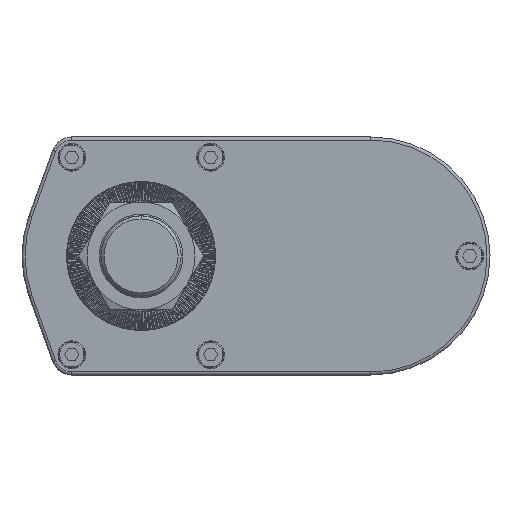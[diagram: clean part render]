
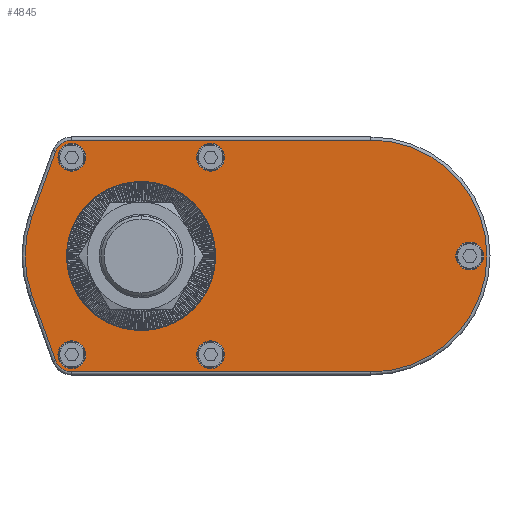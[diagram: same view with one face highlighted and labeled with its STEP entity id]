
A CAD part, left-side view. The second image highlights one B-rep face of the part: STEP entity #4845.
In plain terms, the highlighted planar face has unit normal (-1, 0, 0).
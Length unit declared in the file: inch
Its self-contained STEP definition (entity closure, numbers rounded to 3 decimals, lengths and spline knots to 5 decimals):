
#4845=ADVANCED_FACE('',(#9782,#9783,#9784,#9785,#9786,#9787,#9788),#9789,.F.);
#9782=FACE_BOUND('',#15267,.T.);
#9783=FACE_BOUND('',#15268,.T.);
#9784=FACE_BOUND('',#15269,.T.);
#9785=FACE_BOUND('',#15270,.T.);
#9786=FACE_BOUND('',#15271,.T.);
#9787=FACE_BOUND('',#15272,.T.);
#9788=FACE_OUTER_BOUND('',#15273,.T.);
#9789=PLANE('',#15274);
#15267=EDGE_LOOP('',(#29398,#29399));
#15268=EDGE_LOOP('',(#29400,#29401));
#15269=EDGE_LOOP('',(#29402,#29403));
#15270=EDGE_LOOP('',(#29404,#29405));
#15271=EDGE_LOOP('',(#29406,#29407));
#15272=EDGE_LOOP('',(#29408,#29409));
#15273=EDGE_LOOP('',(#29410,#29411,#29412,#29413,#29414,#29415,#29416,#29417));
#15274=AXIS2_PLACEMENT_3D('',#29418,#29419,#29420);
#29398=ORIENTED_EDGE('',*,*,#34643,.F.);
#29399=ORIENTED_EDGE('',*,*,#31966,.F.);
#29400=ORIENTED_EDGE('',*,*,#32916,.T.);
#29401=ORIENTED_EDGE('',*,*,#33321,.T.);
#29402=ORIENTED_EDGE('',*,*,#31656,.T.);
#29403=ORIENTED_EDGE('',*,*,#33598,.T.);
#29404=ORIENTED_EDGE('',*,*,#32038,.T.);
#29405=ORIENTED_EDGE('',*,*,#35002,.T.);
#29406=ORIENTED_EDGE('',*,*,#30761,.T.);
#29407=ORIENTED_EDGE('',*,*,#34966,.T.);
#29408=ORIENTED_EDGE('',*,*,#31306,.T.);
#29409=ORIENTED_EDGE('',*,*,#35512,.T.);
#29410=ORIENTED_EDGE('',*,*,#31606,.T.);
#29411=ORIENTED_EDGE('',*,*,#34983,.T.);
#29412=ORIENTED_EDGE('',*,*,#30460,.T.);
#29413=ORIENTED_EDGE('',*,*,#34968,.T.);
#29414=ORIENTED_EDGE('',*,*,#34328,.T.);
#29415=ORIENTED_EDGE('',*,*,#30365,.T.);
#29416=ORIENTED_EDGE('',*,*,#32270,.T.);
#29417=ORIENTED_EDGE('',*,*,#33605,.T.);
#29418=CARTESIAN_POINT('',(0.0,-2.93307,0.0));
#29419=DIRECTION('',(1.0,0.0,0.0));
#29420=DIRECTION('',(0.0,1.0,-0.0));
#30365=EDGE_CURVE('',#36289,#36286,#36290,.F.);
#30460=EDGE_CURVE('',#36450,#36448,#36451,.F.);
#30761=EDGE_CURVE('',#36970,#36974,#36976,.T.);
#31306=EDGE_CURVE('',#37886,#37890,#37892,.T.);
#31606=EDGE_CURVE('',#38366,#38371,#38373,.F.);
#31656=EDGE_CURVE('',#38448,#38452,#38454,.T.);
#31966=EDGE_CURVE('',#39006,#38620,#39008,.F.);
#32038=EDGE_CURVE('',#39114,#39118,#39120,.T.);
#32270=EDGE_CURVE('',#36286,#39468,#39470,.F.);
#32916=EDGE_CURVE('',#40434,#40436,#40438,.T.);
#33321=EDGE_CURVE('',#40436,#40434,#40976,.T.);
#33598=EDGE_CURVE('',#38452,#38448,#41325,.T.);
#33605=EDGE_CURVE('',#39468,#38366,#41333,.F.);
#34328=EDGE_CURVE('',#42234,#36289,#42235,.F.);
#34643=EDGE_CURVE('',#38620,#39006,#42596,.F.);
#34966=EDGE_CURVE('',#36974,#36970,#42966,.T.);
#34968=EDGE_CURVE('',#36448,#42234,#42968,.F.);
#34983=EDGE_CURVE('',#38371,#36450,#42984,.F.);
#35002=EDGE_CURVE('',#39118,#39114,#43005,.T.);
#35512=EDGE_CURVE('',#37890,#37886,#43539,.T.);
#36286=VERTEX_POINT('',#44543);
#36289=VERTEX_POINT('',#44546);
#36290=LINE('',#44547,#44548);
#36448=VERTEX_POINT('',#44759);
#36450=VERTEX_POINT('',#44761);
#36451=CIRCLE('',#44762,0.22047);
#36970=VERTEX_POINT('',#45461);
#36974=VERTEX_POINT('',#45466);
#36976=CIRCLE('',#45469,0.17717);
#37886=VERTEX_POINT('',#46678);
#37890=VERTEX_POINT('',#46683);
#37892=CIRCLE('',#46686,0.17717);
#38366=VERTEX_POINT('',#47350);
#38371=VERTEX_POINT('',#47355);
#38373=CIRCLE('',#47357,1.48031);
#38448=VERTEX_POINT('',#47471);
#38452=VERTEX_POINT('',#47476);
#38454=CIRCLE('',#47479,0.17717);
#38620=VERTEX_POINT('',#47699);
#39006=VERTEX_POINT('',#48086);
#39008=CIRCLE('',#48089,0.94882);
#39114=VERTEX_POINT('',#48230);
#39118=VERTEX_POINT('',#48235);
#39120=CIRCLE('',#48238,0.17717);
#39468=VERTEX_POINT('',#48724);
#39470=CIRCLE('',#48726,0.22047);
#40434=VERTEX_POINT('',#50103);
#40436=VERTEX_POINT('',#50106);
#40438=CIRCLE('',#50109,0.17717);
#40976=CIRCLE('',#50877,0.17717);
#41325=CIRCLE('',#51359,0.17717);
#41333=LINE('',#51370,#51371);
#42234=VERTEX_POINT('',#52640);
#42235=CIRCLE('',#52641,1.48031);
#42596=CIRCLE('',#53148,0.94882);
#42966=CIRCLE('',#53621,0.17717);
#42968=LINE('',#53623,#53624);
#42984=LINE('',#53643,#53644);
#43005=CIRCLE('',#53672,0.17717);
#43539=CIRCLE('',#54364,0.17717);
#44543=CARTESIAN_POINT('',(0.0,0.88425,1.48031));
#44546=CARTESIAN_POINT('',(0.0,-2.93307,1.48031));
#44547=CARTESIAN_POINT('',(0.0,0.88425,1.48031));
#44548=VECTOR('',#54957,39.37008);
#44759=CARTESIAN_POINT('',(0.0,0.88425,-1.48031));
#44761=CARTESIAN_POINT('',(0.0,1.0916,-1.33479));
#44762=AXIS2_PLACEMENT_3D('',#55071,#55072,#55073);
#45461=CARTESIAN_POINT('',(0.0,-0.8874,1.08268));
#45466=CARTESIAN_POINT('',(0.0,-0.8874,1.43701));
#45469=AXIS2_PLACEMENT_3D('',#55433,#55434,#55435);
#46678=CARTESIAN_POINT('',(0.0,0.88425,-1.43701));
#46683=CARTESIAN_POINT('',(0.0,0.88425,-1.08268));
#46686=AXIS2_PLACEMENT_3D('',#56231,#56232,#56233);
#47350=CARTESIAN_POINT('',(0.0,1.39217,0.50319));
#47355=CARTESIAN_POINT('',(0.0,1.39217,-0.50319));
#47357=AXIS2_PLACEMENT_3D('',#56611,#56612,#56613);
#47471=CARTESIAN_POINT('',(0.0,0.88425,1.08268));
#47476=CARTESIAN_POINT('',(0.0,0.88425,1.43701));
#47479=AXIS2_PLACEMENT_3D('',#56672,#56673,#56674);
#47699=CARTESIAN_POINT('',(0.0,0.0,-0.94882));
#48086=CARTESIAN_POINT('',(0.0,0.,0.94882));
#48089=AXIS2_PLACEMENT_3D('',#57448,#57449,#57450);
#48230=CARTESIAN_POINT('',(0.0,-0.8874,-1.43701));
#48235=CARTESIAN_POINT('',(0.0,-0.8874,-1.08268));
#48238=AXIS2_PLACEMENT_3D('',#57536,#57537,#57538);
#48724=CARTESIAN_POINT('',(0.0,1.0916,1.33479));
#48726=AXIS2_PLACEMENT_3D('',#57797,#57798,#57799);
#50103=CARTESIAN_POINT('',(0.0,-4.19449,-0.17717));
#50106=CARTESIAN_POINT('',(0.0,-4.19449,0.17717));
#50109=AXIS2_PLACEMENT_3D('',#58532,#58533,#58534);
#50877=AXIS2_PLACEMENT_3D('',#58935,#58936,#58937);
#51359=AXIS2_PLACEMENT_3D('',#59254,#59255,#59256);
#51370=CARTESIAN_POINT('',(0.0,1.39217,0.50319));
#51371=VECTOR('',#59263,39.37008);
#52640=CARTESIAN_POINT('',(0.0,-2.93307,-1.48031));
#52641=AXIS2_PLACEMENT_3D('',#60007,#60008,#60009);
#53148=AXIS2_PLACEMENT_3D('',#60318,#60319,#60320);
#53621=AXIS2_PLACEMENT_3D('',#60759,#60760,#60761);
#53623=CARTESIAN_POINT('',(0.0,-2.93307,-1.48031));
#53624=VECTOR('',#60762,39.37008);
#53643=CARTESIAN_POINT('',(0.0,1.0916,-1.33479));
#53644=VECTOR('',#60781,39.37008);
#53672=AXIS2_PLACEMENT_3D('',#60798,#60799,#60800);
#54364=AXIS2_PLACEMENT_3D('',#61096,#61097,#61098);
#54957=DIRECTION('',(0.0,-1.0,0.0));
#55071=CARTESIAN_POINT('',(0.0,0.88425,-1.25984));
#55072=DIRECTION('',(1.0,0.0,0.0));
#55073=DIRECTION('',(0.0,0.0,-1.0));
#55433=CARTESIAN_POINT('',(0.0,-0.8874,1.25984));
#55434=DIRECTION('',(1.0,0.0,0.0));
#55435=DIRECTION('',(0.0,0.0,-1.0));
#56231=CARTESIAN_POINT('',(0.0,0.88425,-1.25984));
#56232=DIRECTION('',(1.0,0.0,0.0));
#56233=DIRECTION('',(0.0,0.0,-1.0));
#56611=CARTESIAN_POINT('',(0.0,0.,0.0));
#56612=DIRECTION('',(1.0,0.0,0.0));
#56613=DIRECTION('',(0.0,0.0,-1.0));
#56672=CARTESIAN_POINT('',(0.0,0.88425,1.25984));
#56673=DIRECTION('',(1.0,0.0,0.0));
#56674=DIRECTION('',(0.0,0.0,-1.0));
#57448=CARTESIAN_POINT('',(0.0,0.0,0.0));
#57449=DIRECTION('',(1.0,0.0,0.0));
#57450=DIRECTION('',(0.0,0.0,-1.0));
#57536=CARTESIAN_POINT('',(0.0,-0.8874,-1.25984));
#57537=DIRECTION('',(1.0,0.0,0.0));
#57538=DIRECTION('',(0.0,0.0,-1.0));
#57797=CARTESIAN_POINT('',(0.0,0.88425,1.25984));
#57798=DIRECTION('',(1.0,0.0,0.0));
#57799=DIRECTION('',(0.0,0.0,-1.0));
#58532=CARTESIAN_POINT('',(0.0,-4.19449,0.0));
#58533=DIRECTION('',(1.0,0.0,0.0));
#58534=DIRECTION('',(0.0,0.0,-1.0));
#58935=CARTESIAN_POINT('',(0.0,-4.19449,0.0));
#58936=DIRECTION('',(1.0,0.0,0.0));
#58937=DIRECTION('',(0.0,0.0,-1.0));
#59254=CARTESIAN_POINT('',(0.0,0.88425,1.25984));
#59255=DIRECTION('',(1.0,0.0,0.0));
#59256=DIRECTION('',(0.0,0.0,-1.0));
#59263=DIRECTION('',(0.0,-0.34,0.94));
#60007=CARTESIAN_POINT('',(0.0,-2.93307,0.0));
#60008=DIRECTION('',(1.0,0.0,0.0));
#60009=DIRECTION('',(0.0,0.0,-1.0));
#60318=CARTESIAN_POINT('',(0.0,0.0,0.0));
#60319=DIRECTION('',(1.0,0.0,0.0));
#60320=DIRECTION('',(0.0,0.0,-1.0));
#60759=CARTESIAN_POINT('',(0.0,-0.8874,1.25984));
#60760=DIRECTION('',(1.0,0.0,0.0));
#60761=DIRECTION('',(0.0,0.0,-1.0));
#60762=DIRECTION('',(0.0,1.0,0.0));
#60781=DIRECTION('',(0.0,0.34,0.94));
#60798=CARTESIAN_POINT('',(0.0,-0.8874,-1.25984));
#60799=DIRECTION('',(1.0,0.0,0.0));
#60800=DIRECTION('',(0.0,0.0,-1.0));
#61096=CARTESIAN_POINT('',(0.0,0.88425,-1.25984));
#61097=DIRECTION('',(1.0,0.0,0.0));
#61098=DIRECTION('',(0.0,0.0,-1.0));
